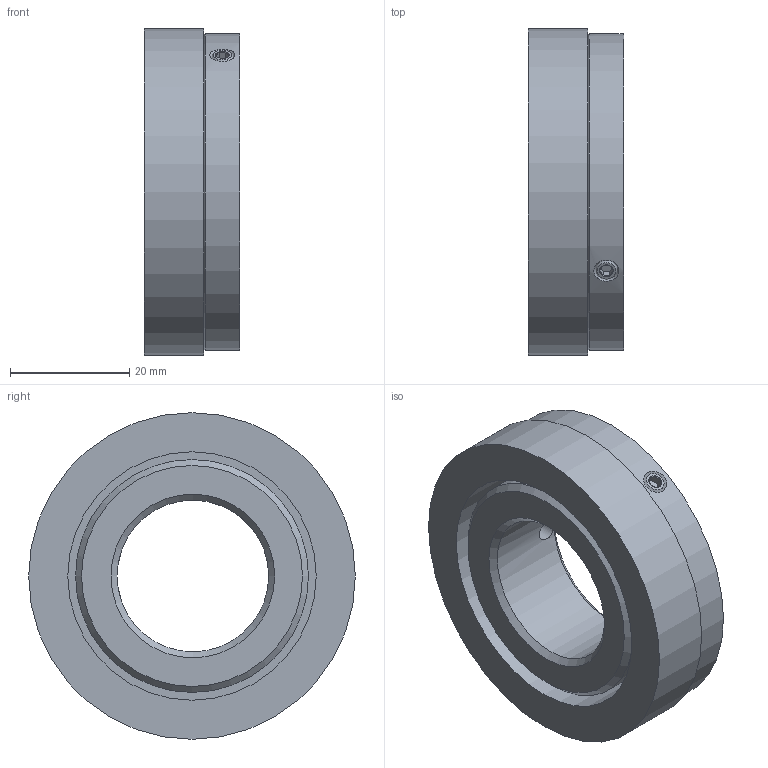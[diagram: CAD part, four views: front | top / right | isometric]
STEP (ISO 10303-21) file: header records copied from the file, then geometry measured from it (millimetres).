
FILE_DESCRIPTION (( 'STEP AP203' ), '1' );
FILE_NAME ('8.RI50.055.2540.112.STEP', '2013-07-17T13:31:49', ( 'Hodot' ), ( '' ), 'SwSTEP 2.0', 'SolidWorks 2012', '' );
FILE_SCHEMA (( 'CONFIG_CONTROL_DESIGN' ));
Length unit declared in the file: millimetre
Products named in the file (1): 8.RI50.055.2540.112
Bounding box: 16 x 54.7 x 54.7 mm (x, y, z)
Volume: 26152.1 mm3; surface area: 12047.3 mm2
Topology: 4 solids, 4 shells, 54 faces, 104 edges, 60 vertices
Faces by surface type: cone 23, plane 22, cylinder 9
Full cylindrical faces by diameter (mm): 3.3 x2, 4 x2, 25.4 x1, 39 x1, 41.6 x1, 53 x1, 54.7 x1
Entity records: 1517 total; most frequent: CARTESIAN_POINT 477, DIRECTION 206, ORIENTED_EDGE 152, AXIS2_PLACEMENT_3D 91, EDGE_LOOP 84, EDGE_CURVE 76, FACE_OUTER_BOUND 63, ADVANCED_FACE 54
